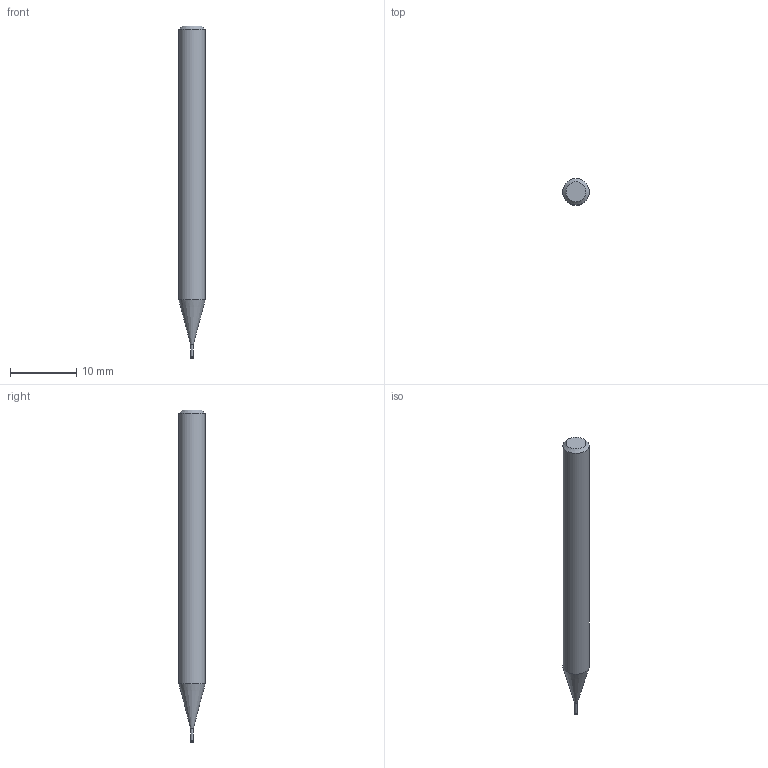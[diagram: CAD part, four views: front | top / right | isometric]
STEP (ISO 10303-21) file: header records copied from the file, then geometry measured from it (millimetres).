
FILE_DESCRIPTION((''),'2;1');
FILE_NAME('C:\Users\nsx150\AppData\Local\Temp\Mastercam 2021\LJSIDMOTM8\TEMP.step','2021-08-03T14:03:43',(''),(''),'STEP Write','Mastercam 2021 ... CNC Software, Inc.','');
FILE_SCHEMA(('AUTOMOTIVE_DESIGN'));
Length unit declared in the file: millimetre
Products named in the file (1): None
Bounding box: 4 x 4 x 50 mm (x, y, z)
Volume: 548.1 mm3; surface area: 577.5 mm2
Topology: 2 solids, 2 shells, 10 faces, 14 edges, 8 vertices
Faces by surface type: plane 4, cylinder 3, cone 2, torus 1
Full cylindrical faces by diameter (mm): 0.37 x1, 0.4 x1, 4 x1
Entity records: 232 total; most frequent: DIRECTION 40, CARTESIAN_POINT 28, AXIS2_PLACEMENT_3D 20, ORIENTED_EDGE 16, EDGE_LOOP 16, STYLED_ITEM 13, ADVANCED_FACE 10, FACE_BOUND 10
